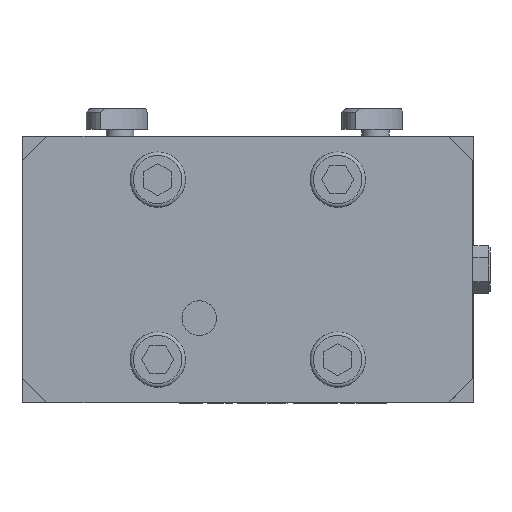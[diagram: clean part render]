
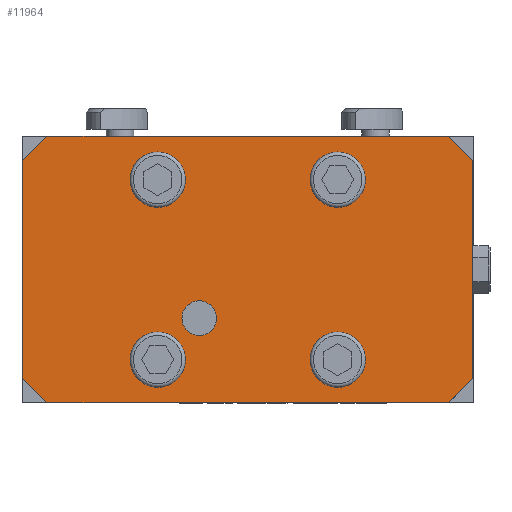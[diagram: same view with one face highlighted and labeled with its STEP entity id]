
A CAD part, front view. The second image highlights one B-rep face of the part: STEP entity #11964.
In plain terms, the highlighted planar face has unit normal (0, -1, 0).
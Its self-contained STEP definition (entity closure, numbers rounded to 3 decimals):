
#164 = EDGE_CURVE ( 'NONE', #7351, #3632, #4707, .T. ) ;
#648 = VECTOR ( 'NONE', #7150, 1000. ) ;
#1215 = EDGE_CURVE ( 'NONE', #28966, #25031, #25214, .T. ) ;
#1397 = DIRECTION ( 'NONE',  ( -1., 0., 0. ) ) ;
#2667 = DIRECTION ( 'NONE',  ( 0., 0., 1. ) ) ;
#2781 = CARTESIAN_POINT ( 'NONE',  ( 65., 0., -38.5 ) ) ;
#2894 = DIRECTION ( 'NONE',  ( 1., 0., 0. ) ) ;
#3088 = ORIENTED_EDGE ( 'NONE', *, *, #1215, .T. ) ;
#3361 = EDGE_CURVE ( 'NONE', #36081, #36081, #45064, .T. ) ;
#3469 = LINE ( 'NONE', #2781, #648 ) ;
#3632 = VERTEX_POINT ( 'NONE', #8425 ) ;
#3720 = CARTESIAN_POINT ( 'NONE',  ( 65., 0., -31.5 ) ) ;
#4440 = VERTEX_POINT ( 'NONE', #31631 ) ;
#4707 = LINE ( 'NONE', #33541, #20878 ) ;
#5381 = DIRECTION ( 'NONE',  ( 0.707, 0., -0.707 ) ) ;
#6430 = FACE_OUTER_BOUND ( 'NONE', #11333, .T. ) ;
#6656 = FACE_BOUND ( 'NONE', #30355, .T. ) ;
#6755 = EDGE_CURVE ( 'NONE', #15310, #15310, #34546, .T. ) ;
#7150 = DIRECTION ( 'NONE',  ( 0., 0., -1. ) ) ;
#7351 = VERTEX_POINT ( 'NONE', #35712 ) ;
#7857 = VECTOR ( 'NONE', #39789, 1000. ) ;
#7886 = DIRECTION ( 'NONE',  ( 0., 0., -1. ) ) ;
#8417 = CARTESIAN_POINT ( 'NONE',  ( -26., 0., 20. ) ) ;
#8425 = CARTESIAN_POINT ( 'NONE',  ( -58., 0., -38.5 ) ) ;
#8486 = CARTESIAN_POINT ( 'NONE',  ( 26., 0., 26. ) ) ;
#8757 = DIRECTION ( 'NONE',  ( 0., -1., 0. ) ) ;
#8762 = VERTEX_POINT ( 'NONE', #28076 ) ;
#9347 = CARTESIAN_POINT ( 'NONE',  ( 26., 0., -26. ) ) ;
#9550 = EDGE_CURVE ( 'NONE', #43221, #43221, #18130, .T. ) ;
#11333 = EDGE_LOOP ( 'NONE', ( #41659, #21767, #20185, #37722, #23691, #41144, #24361, #3088 ) ) ;
#11728 = DIRECTION ( 'NONE',  ( -0.707, 0., -0.707 ) ) ;
#11964 = ADVANCED_FACE ( 'NONE', ( #13104, #30017, #19775, #6656, #30896, #6430 ), #30677, .F. ) ;
#12665 = AXIS2_PLACEMENT_3D ( 'NONE', #24040, #16703, #2894 ) ;
#12749 = DIRECTION ( 'NONE',  ( -1., 0., 0. ) ) ;
#13104 = FACE_BOUND ( 'NONE', #20361, .T. ) ;
#13430 = CIRCLE ( 'NONE', #12665, 6. ) ;
#13841 = EDGE_CURVE ( 'NONE', #25031, #27792, #22881, .T. ) ;
#14030 = AXIS2_PLACEMENT_3D ( 'NONE', #34129, #23679, #27528 ) ;
#14724 = CARTESIAN_POINT ( 'NONE',  ( -58., 0., 38.5 ) ) ;
#14980 = EDGE_CURVE ( 'NONE', #21985, #21985, #17619, .T. ) ;
#15014 = DIRECTION ( 'NONE',  ( -1., 0., 0. ) ) ;
#15310 = VERTEX_POINT ( 'NONE', #8417 ) ;
#15335 = CARTESIAN_POINT ( 'NONE',  ( 65., 0., 31.5 ) ) ;
#15391 = EDGE_CURVE ( 'NONE', #4440, #7351, #42246, .T. ) ;
#15611 = AXIS2_PLACEMENT_3D ( 'NONE', #38778, #8757, #18882 ) ;
#15806 = LINE ( 'NONE', #19269, #34690 ) ;
#15815 = AXIS2_PLACEMENT_3D ( 'NONE', #8486, #39408, #1397 ) ;
#16206 = CARTESIAN_POINT ( 'NONE',  ( -20., 0., -26. ) ) ;
#16703 = DIRECTION ( 'NONE',  ( 0., -1., 0. ) ) ;
#17610 = CARTESIAN_POINT ( 'NONE',  ( -14., 0., -14. ) ) ;
#17619 = CIRCLE ( 'NONE', #18368, 5. ) ;
#17800 = EDGE_CURVE ( 'NONE', #44368, #44368, #13430, .T. ) ;
#18130 = CIRCLE ( 'NONE', #32669, 6. ) ;
#18368 = AXIS2_PLACEMENT_3D ( 'NONE', #17610, #31036, #24252 ) ;
#18882 = DIRECTION ( 'NONE',  ( 0., 0., -1. ) ) ;
#18970 = VECTOR ( 'NONE', #12749, 1000. ) ;
#19269 = CARTESIAN_POINT ( 'NONE',  ( 65., 0., -31.5 ) ) ;
#19775 = FACE_BOUND ( 'NONE', #26347, .T. ) ;
#19949 = CARTESIAN_POINT ( 'NONE',  ( 65., 0., 31.5 ) ) ;
#20185 = ORIENTED_EDGE ( 'NONE', *, *, #15391, .T. ) ;
#20361 = EDGE_LOOP ( 'NONE', ( #43330 ) ) ;
#20878 = VECTOR ( 'NONE', #5381, 1000. ) ;
#21767 = ORIENTED_EDGE ( 'NONE', *, *, #32125, .T. ) ;
#21985 = VERTEX_POINT ( 'NONE', #35852 ) ;
#21993 = VERTEX_POINT ( 'NONE', #3720 ) ;
#22652 = CARTESIAN_POINT ( 'NONE',  ( 26., 0., -20. ) ) ;
#22881 = LINE ( 'NONE', #43910, #18970 ) ;
#23594 = DIRECTION ( 'NONE',  ( 0., -1., 0. ) ) ;
#23679 = DIRECTION ( 'NONE',  ( 0., 1., 0. ) ) ;
#23691 = ORIENTED_EDGE ( 'NONE', *, *, #27538, .F. ) ;
#24040 = CARTESIAN_POINT ( 'NONE',  ( -26., 0., -26. ) ) ;
#24252 = DIRECTION ( 'NONE',  ( 0., 0., -1. ) ) ;
#24292 = EDGE_LOOP ( 'NONE', ( #34276 ) ) ;
#24361 = ORIENTED_EDGE ( 'NONE', *, *, #33997, .F. ) ;
#24719 = CARTESIAN_POINT ( 'NONE',  ( 58., 0., 38.5 ) ) ;
#24761 = EDGE_CURVE ( 'NONE', #8762, #21993, #15806, .T. ) ;
#25007 = VECTOR ( 'NONE', #7886, 1000. ) ;
#25031 = VERTEX_POINT ( 'NONE', #24719 ) ;
#25214 = LINE ( 'NONE', #15335, #7857 ) ;
#26347 = EDGE_LOOP ( 'NONE', ( #30208 ) ) ;
#27528 = DIRECTION ( 'NONE',  ( 0., 0., 1. ) ) ;
#27538 = EDGE_CURVE ( 'NONE', #8762, #3632, #32345, .T. ) ;
#27792 = VERTEX_POINT ( 'NONE', #14724 ) ;
#28076 = CARTESIAN_POINT ( 'NONE',  ( 58., 0., -38.5 ) ) ;
#28966 = VERTEX_POINT ( 'NONE', #19949 ) ;
#30017 = FACE_BOUND ( 'NONE', #24292, .T. ) ;
#30208 = ORIENTED_EDGE ( 'NONE', *, *, #9550, .F. ) ;
#30355 = EDGE_LOOP ( 'NONE', ( #34540 ) ) ;
#30677 = PLANE ( 'NONE',  #14030 ) ;
#30896 = FACE_BOUND ( 'NONE', #32937, .T. ) ;
#31036 = DIRECTION ( 'NONE',  ( 0., -1., 0. ) ) ;
#31590 = VECTOR ( 'NONE', #11728, 1000. ) ;
#31631 = CARTESIAN_POINT ( 'NONE',  ( -65., 0., 31.5 ) ) ;
#32125 = EDGE_CURVE ( 'NONE', #27792, #4440, #43087, .T. ) ;
#32345 = LINE ( 'NONE', #35562, #42845 ) ;
#32669 = AXIS2_PLACEMENT_3D ( 'NONE', #9347, #23594, #2667 ) ;
#32937 = EDGE_LOOP ( 'NONE', ( #36157 ) ) ;
#33141 = DIRECTION ( 'NONE',  ( 0.707, 0., 0.707 ) ) ;
#33541 = CARTESIAN_POINT ( 'NONE',  ( -58., 0., -38.5 ) ) ;
#33997 = EDGE_CURVE ( 'NONE', #28966, #21993, #3469, .T. ) ;
#34129 = CARTESIAN_POINT ( 'NONE',  ( 65., 0., -38.5 ) ) ;
#34276 = ORIENTED_EDGE ( 'NONE', *, *, #3361, .F. ) ;
#34540 = ORIENTED_EDGE ( 'NONE', *, *, #17800, .F. ) ;
#34546 = CIRCLE ( 'NONE', #15611, 6. ) ;
#34690 = VECTOR ( 'NONE', #33141, 1000. ) ;
#35562 = CARTESIAN_POINT ( 'NONE',  ( 65., 0., -38.5 ) ) ;
#35712 = CARTESIAN_POINT ( 'NONE',  ( -65., 0., -31.5 ) ) ;
#35852 = CARTESIAN_POINT ( 'NONE',  ( -14., 0., -19. ) ) ;
#36081 = VERTEX_POINT ( 'NONE', #39535 ) ;
#36157 = ORIENTED_EDGE ( 'NONE', *, *, #6755, .F. ) ;
#37722 = ORIENTED_EDGE ( 'NONE', *, *, #164, .T. ) ;
#38778 = CARTESIAN_POINT ( 'NONE',  ( -26., 0., 26. ) ) ;
#39019 = CARTESIAN_POINT ( 'NONE',  ( -65., 0., -38.5 ) ) ;
#39408 = DIRECTION ( 'NONE',  ( 0., -1., 0. ) ) ;
#39535 = CARTESIAN_POINT ( 'NONE',  ( 20., 0., 26. ) ) ;
#39789 = DIRECTION ( 'NONE',  ( -0.707, 0., 0.707 ) ) ;
#39853 = CARTESIAN_POINT ( 'NONE',  ( -58., 0., 38.5 ) ) ;
#41144 = ORIENTED_EDGE ( 'NONE', *, *, #24761, .T. ) ;
#41659 = ORIENTED_EDGE ( 'NONE', *, *, #13841, .T. ) ;
#42246 = LINE ( 'NONE', #39019, #25007 ) ;
#42845 = VECTOR ( 'NONE', #15014, 1000. ) ;
#43087 = LINE ( 'NONE', #39853, #31590 ) ;
#43221 = VERTEX_POINT ( 'NONE', #22652 ) ;
#43330 = ORIENTED_EDGE ( 'NONE', *, *, #14980, .F. ) ;
#43910 = CARTESIAN_POINT ( 'NONE',  ( 65., 0., 38.5 ) ) ;
#44368 = VERTEX_POINT ( 'NONE', #16206 ) ;
#45064 = CIRCLE ( 'NONE', #15815, 6. ) ;
